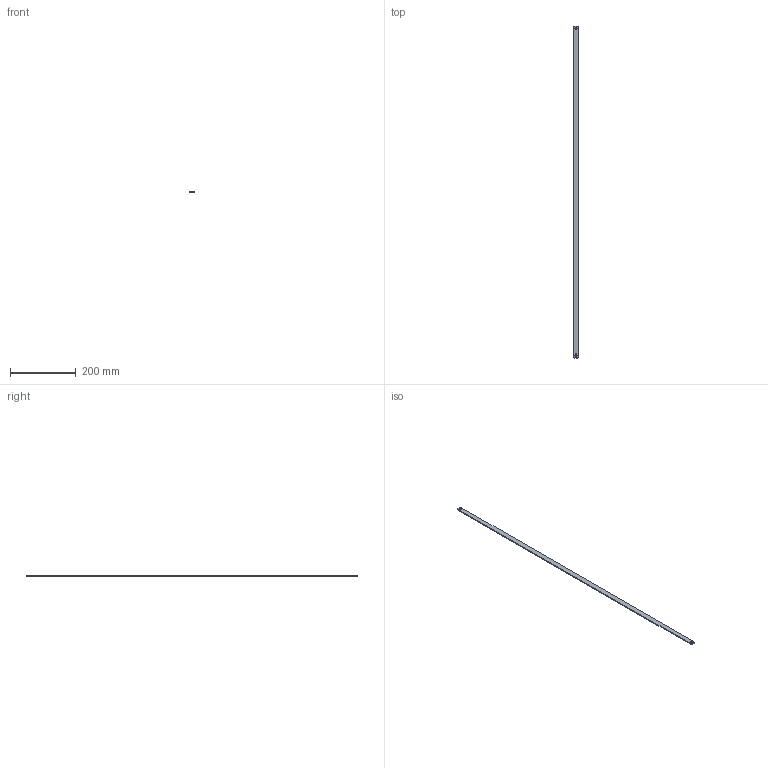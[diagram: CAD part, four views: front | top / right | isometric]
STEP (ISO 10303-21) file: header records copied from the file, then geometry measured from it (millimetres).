
FILE_DESCRIPTION (( 'STEP AP214' ), '1' );
FILE_NAME ('DPP.01 - 1000.STEP', '2016-09-08T08:30:57', ( '' ), ( '' ), 'SwSTEP 2.0', 'SolidWorks 2015', '' );
FILE_SCHEMA (( 'AUTOMOTIVE_DESIGN' ));
Length unit declared in the file: millimetre
Products named in the file (1): DPP.01 - 1000
Bounding box: 14 x 1007.5 x 3 mm (x, y, z)
Volume: 42040.6 mm3; surface area: 34279 mm2
Topology: 1 solids, 1 shells, 21 faces, 57 edges, 38 vertices
Faces by surface type: plane 16, cylinder 5
Entity records: 703 total; most frequent: CARTESIAN_POINT 117, ORIENTED_EDGE 114, DIRECTION 111, EDGE_CURVE 57, LINE 47, VECTOR 47, VERTEX_POINT 38, AXIS2_PLACEMENT_3D 32
